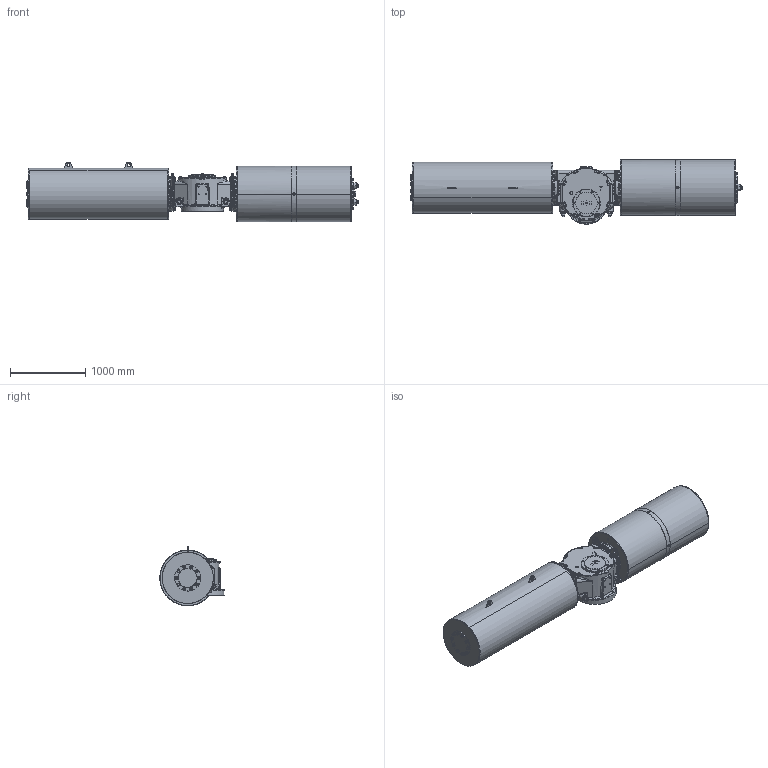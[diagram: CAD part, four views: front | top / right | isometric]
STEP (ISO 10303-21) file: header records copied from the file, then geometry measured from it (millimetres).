
FILE_DESCRIPTION (( 'STEP AP203' ), '1' );
FILE_NAME ('VTS7-700D-SR-FO.STEP', '2023-01-01T10:06:32', ( '' ), ( '' ), 'SwSTEP 2.0', 'SolidWorks 2020', '' );
FILE_SCHEMA (( 'CONFIG_CONTROL_DESIGN' ));
Length unit declared in the file: millimetre
Products named in the file (1): VTS7-700D-SR-FO
Bounding box: 4406.22 x 852.5 x 789.5 mm (x, y, z)
Volume: 1526369321.4 mm3; surface area: 13149811 mm2
Topology: 54 solids, 88 shells, 3857 faces, 9326 edges, 5644 vertices
Faces by surface type: cylinder 1395, plane 1160, cone 819, bspline 358, sphere 68, torus 57
Entity records: 140452 total; most frequent: CARTESIAN_POINT 53089, DIRECTION 18578, ORIENTED_EDGE 18188, EDGE_CURVE 9094, AXIS2_PLACEMENT_3D 7566, VERTEX_POINT 5624, EDGE_LOOP 4198, CIRCLE 4066
